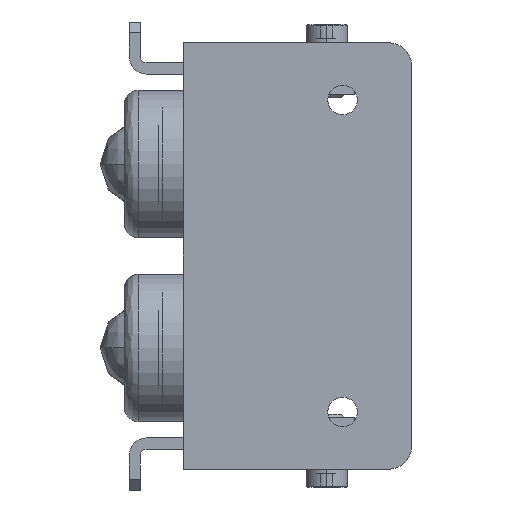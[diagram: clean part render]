
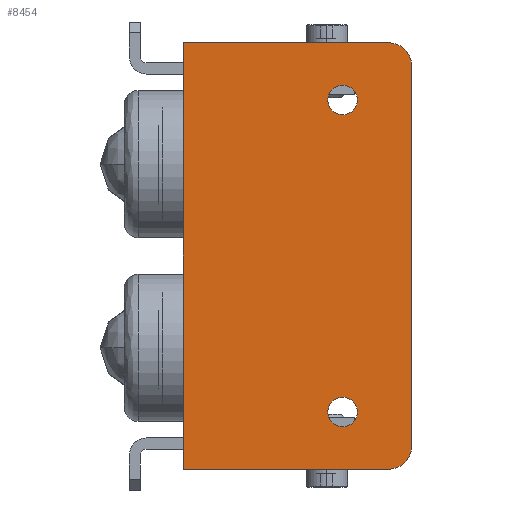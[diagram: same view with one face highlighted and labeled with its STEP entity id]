
A CAD part, left-side view. The second image highlights one B-rep face of the part: STEP entity #8454.
In plain terms, the highlighted planar face has unit normal (-1, 0, 0).
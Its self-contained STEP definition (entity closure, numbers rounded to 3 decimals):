
#18 = EDGE_CURVE ( 'NONE', #1805, #4205, #5231, .T. ) ;
#43 = EDGE_CURVE ( 'NONE', #5084, #1287, #7836, .T. ) ;
#64 = EDGE_CURVE ( 'NONE', #11297, #5084, #12975, .T. ) ;
#233 = CARTESIAN_POINT ( 'NONE',  ( -6., -13., -45. ) ) ;
#277 = DIRECTION ( 'NONE',  ( 0., 0., -1. ) ) ;
#320 = AXIS2_PLACEMENT_3D ( 'NONE', #233, #7909, #1343 ) ;
#540 = AXIS2_PLACEMENT_3D ( 'NONE', #10991, #6847, #277 ) ;
#981 = CARTESIAN_POINT ( 'NONE',  ( -6., -33., -54.7 ) ) ;
#1226 = DIRECTION ( 'NONE',  ( 0., -1., 0. ) ) ;
#1287 = VERTEX_POINT ( 'NONE', #13508 ) ;
#1341 = PLANE ( 'NONE',  #540 ) ;
#1343 = DIRECTION ( 'NONE',  ( 0., 0., -1. ) ) ;
#1397 = CARTESIAN_POINT ( 'NONE',  ( -6., -26.2, 61.5 ) ) ;
#1439 = EDGE_CURVE ( 'NONE', #10762, #11023, #2041, .T. ) ;
#1779 = CARTESIAN_POINT ( 'NONE',  ( -6., 33., 61.5 ) ) ;
#1788 = CARTESIAN_POINT ( 'NONE',  ( -6., -13., -40.75 ) ) ;
#1805 = VERTEX_POINT ( 'NONE', #981 ) ;
#1971 = ORIENTED_EDGE ( 'NONE', *, *, #3956, .F. ) ;
#2041 = CIRCLE ( 'NONE', #5897, 4.25 ) ;
#2221 = DIRECTION ( 'NONE',  ( 0., 0., -1. ) ) ;
#2356 = DIRECTION ( 'NONE',  ( 1., 0., 0. ) ) ;
#2519 = CARTESIAN_POINT ( 'NONE',  ( -6., -26.2, 54.7 ) ) ;
#2606 = ORIENTED_EDGE ( 'NONE', *, *, #4114, .T. ) ;
#2716 = EDGE_CURVE ( 'NONE', #4205, #7212, #11702, .T. ) ;
#2915 = DIRECTION ( 'NONE',  ( 1., 0., 0. ) ) ;
#2979 = ORIENTED_EDGE ( 'NONE', *, *, #64, .F. ) ;
#3089 = CARTESIAN_POINT ( 'NONE',  ( -6., -13., 40.75 ) ) ;
#3198 = VECTOR ( 'NONE', #11363, 1000. ) ;
#3360 = VERTEX_POINT ( 'NONE', #3089 ) ;
#3376 = DIRECTION ( 'NONE',  ( 0., 0., -1. ) ) ;
#3418 = DIRECTION ( 'NONE',  ( 1., 0., 0. ) ) ;
#3444 = EDGE_LOOP ( 'NONE', ( #4492, #2606 ) ) ;
#3449 = ORIENTED_EDGE ( 'NONE', *, *, #5657, .T. ) ;
#3710 = CARTESIAN_POINT ( 'NONE',  ( -6., -13., 45. ) ) ;
#3776 = CARTESIAN_POINT ( 'NONE',  ( -6., -26.2, -54.7 ) ) ;
#3956 = EDGE_CURVE ( 'NONE', #1287, #1805, #6578, .T. ) ;
#3998 = ORIENTED_EDGE ( 'NONE', *, *, #43, .F. ) ;
#4114 = EDGE_CURVE ( 'NONE', #11023, #10762, #7449, .T. ) ;
#4205 = VERTEX_POINT ( 'NONE', #9031 ) ;
#4492 = ORIENTED_EDGE ( 'NONE', *, *, #1439, .T. ) ;
#4745 = CARTESIAN_POINT ( 'NONE',  ( -6., 33., 61.5 ) ) ;
#4817 = DIRECTION ( 'NONE',  ( 0., 0., -1. ) ) ;
#5084 = VERTEX_POINT ( 'NONE', #1397 ) ;
#5171 = ORIENTED_EDGE ( 'NONE', *, *, #5526, .T. ) ;
#5231 = CIRCLE ( 'NONE', #8368, 6.8 ) ;
#5338 = EDGE_CURVE ( 'NONE', #7212, #11297, #11092, .T. ) ;
#5351 = CARTESIAN_POINT ( 'NONE',  ( -6., -33., 61.5 ) ) ;
#5526 = EDGE_CURVE ( 'NONE', #3360, #10659, #12247, .T. ) ;
#5564 = DIRECTION ( 'NONE',  ( 1., 0., 0. ) ) ;
#5657 = EDGE_CURVE ( 'NONE', #10659, #3360, #6035, .T. ) ;
#5897 = AXIS2_PLACEMENT_3D ( 'NONE', #11876, #5564, #12914 ) ;
#5946 = EDGE_LOOP ( 'NONE', ( #5171, #3449 ) ) ;
#6035 = CIRCLE ( 'NONE', #10078, 4.25 ) ;
#6477 = DIRECTION ( 'NONE',  ( 0., 0., -1. ) ) ;
#6559 = CARTESIAN_POINT ( 'NONE',  ( -6., 33., 61.5 ) ) ;
#6578 = LINE ( 'NONE', #5351, #11801 ) ;
#6847 = DIRECTION ( 'NONE',  ( -1., 0., 0. ) ) ;
#6922 = ORIENTED_EDGE ( 'NONE', *, *, #5338, .F. ) ;
#7103 = EDGE_LOOP ( 'NONE', ( #2979, #6922, #12968, #8469, #1971, #3998 ) ) ;
#7212 = VERTEX_POINT ( 'NONE', #7844 ) ;
#7449 = CIRCLE ( 'NONE', #320, 4.25 ) ;
#7507 = VECTOR ( 'NONE', #1226, 1000. ) ;
#7836 = CIRCLE ( 'NONE', #8334, 6.8 ) ;
#7844 = CARTESIAN_POINT ( 'NONE',  ( -6., 33., -61.5 ) ) ;
#7909 = DIRECTION ( 'NONE',  ( 1., 0., 0. ) ) ;
#8334 = AXIS2_PLACEMENT_3D ( 'NONE', #2519, #2356, #2221 ) ;
#8368 = AXIS2_PLACEMENT_3D ( 'NONE', #3776, #3418, #3376 ) ;
#8454 = ADVANCED_FACE ( 'NONE', ( #13779, #12929, #12812 ), #1341, .T. ) ;
#8469 = ORIENTED_EDGE ( 'NONE', *, *, #18, .F. ) ;
#8492 = DIRECTION ( 'NONE',  ( 0., 0., 1. ) ) ;
#9031 = CARTESIAN_POINT ( 'NONE',  ( -6., -26.2, -61.5 ) ) ;
#9357 = CARTESIAN_POINT ( 'NONE',  ( -6., -13., 45. ) ) ;
#10078 = AXIS2_PLACEMENT_3D ( 'NONE', #9357, #2915, #10399 ) ;
#10328 = CARTESIAN_POINT ( 'NONE',  ( -6., 33., -61.5 ) ) ;
#10399 = DIRECTION ( 'NONE',  ( 0., 0., -1. ) ) ;
#10659 = VERTEX_POINT ( 'NONE', #11910 ) ;
#10728 = AXIS2_PLACEMENT_3D ( 'NONE', #3710, #11176, #4817 ) ;
#10762 = VERTEX_POINT ( 'NONE', #11045 ) ;
#10991 = CARTESIAN_POINT ( 'NONE',  ( -6., 0., 0. ) ) ;
#11023 = VERTEX_POINT ( 'NONE', #1788 ) ;
#11045 = CARTESIAN_POINT ( 'NONE',  ( -6., -13., -49.25 ) ) ;
#11092 = LINE ( 'NONE', #6559, #13517 ) ;
#11176 = DIRECTION ( 'NONE',  ( 1., 0., 0. ) ) ;
#11297 = VERTEX_POINT ( 'NONE', #4745 ) ;
#11363 = DIRECTION ( 'NONE',  ( 0., 1., 0. ) ) ;
#11702 = LINE ( 'NONE', #10328, #3198 ) ;
#11801 = VECTOR ( 'NONE', #6477, 1000. ) ;
#11876 = CARTESIAN_POINT ( 'NONE',  ( -6., -13., -45. ) ) ;
#11910 = CARTESIAN_POINT ( 'NONE',  ( -6., -13., 49.25 ) ) ;
#12247 = CIRCLE ( 'NONE', #10728, 4.25 ) ;
#12812 = FACE_OUTER_BOUND ( 'NONE', #7103, .T. ) ;
#12914 = DIRECTION ( 'NONE',  ( 0., 0., -1. ) ) ;
#12929 = FACE_BOUND ( 'NONE', #3444, .T. ) ;
#12968 = ORIENTED_EDGE ( 'NONE', *, *, #2716, .F. ) ;
#12975 = LINE ( 'NONE', #1779, #7507 ) ;
#13508 = CARTESIAN_POINT ( 'NONE',  ( -6., -33., 54.7 ) ) ;
#13517 = VECTOR ( 'NONE', #8492, 1000. ) ;
#13779 = FACE_BOUND ( 'NONE', #5946, .T. ) ;
